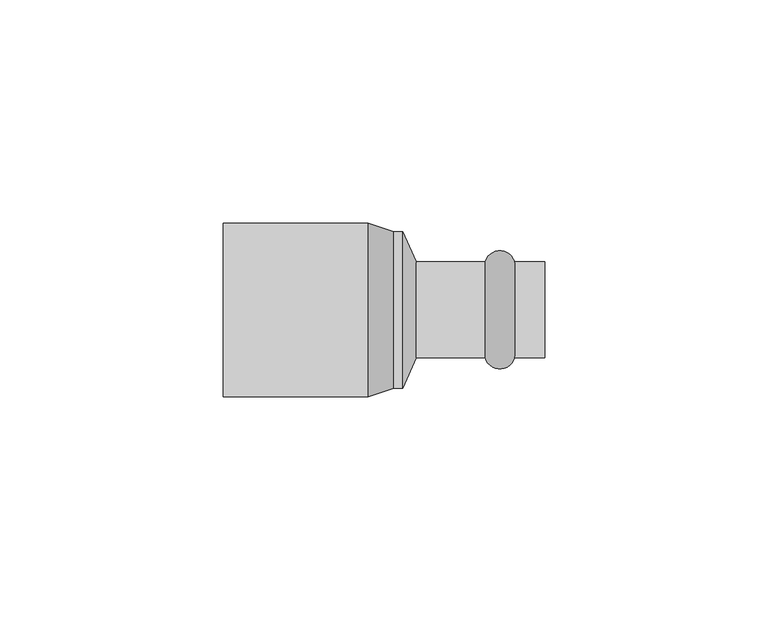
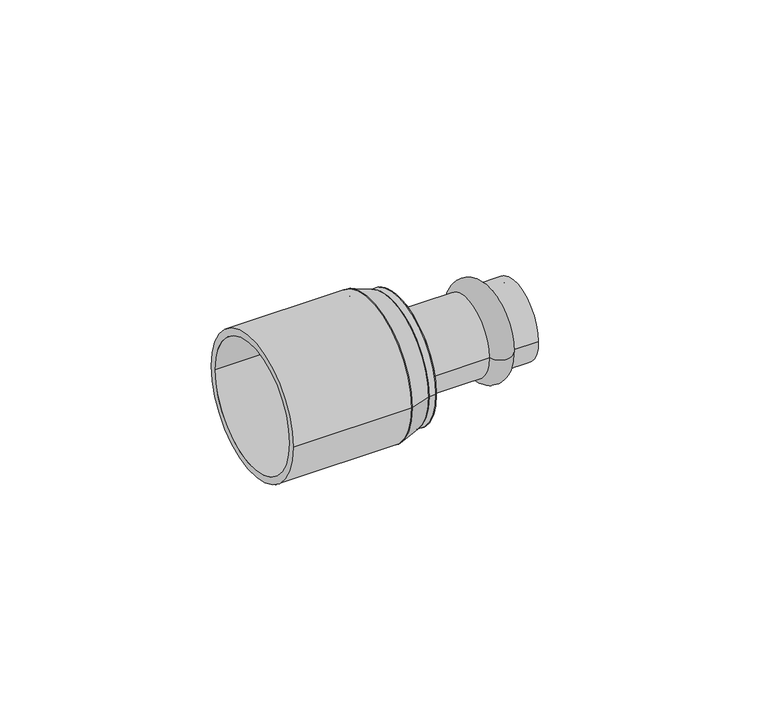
"""IFC4 building model written with IfcOpenShell, lengths in millimetres: pipe fitting geometry, VALTEC_VTi.905.I_Вставка переходная_Нержавеющая сталь : VTi.905.I."""

import ifcopenshell
import ifcopenshell.guid

model = None  # the IFC model being written
_history = None  # IfcOwnerHistory: only IFC2X3 demands one
_inside = {}  # id of a spatial element -> (the spatial element, [elements in it])
_under = {}  # id of a project, library or spatial element -> (it, [spatial elements below it])
_declared = {}  # id of a project -> (the project, [libraries it declares])
_typed = {}  # id of a type object -> (the type object, [elements of that type])
_made_of = {}  # id of a material, layer set ... -> (it, [elements and type objects made of it])


def new_model(schema):
    """Start an empty IFC model of exactly this schema.

    Asked for "IFC4X3", IfcOpenShell would pick the latest addendum, in which some entities
    have other attributes; the version numbers below select the first issue.
    IFC2X3 requires an IfcOwnerHistory on every rooted entity: one is made here for all.
    """
    global model, _history
    if schema == "IFC4X3":
        model = ifcopenshell.file(schema_version=(4, 3, 0, 0))
    else:
        model = ifcopenshell.file(schema=schema)
    _inside.clear()
    _under.clear()
    _declared.clear()
    _typed.clear()
    _made_of.clear()
    _history = None
    if model.schema == "IFC2X3":
        org = make("IfcOrganization", Name="unknown")
        user = make(
            "IfcPersonAndOrganization",
            ThePerson=make("IfcPerson", FamilyName="unknown"),
            TheOrganization=org,
        )
        app = make(
            "IfcApplication",
            ApplicationDeveloper=org,
            Version="unknown",
            ApplicationFullName="unknown",
            ApplicationIdentifier="unknown",
        )
        _history = make(
            "IfcOwnerHistory",
            OwningUser=user,
            OwningApplication=app,
            ChangeAction="ADDED",
            CreationDate=0,
        )
    return model


def make(cls, **values):
    """One entity of the class cls with the attributes given. An attribute that is None is left unset."""
    return model.create_entity(
        cls, **{name: value for name, value in values.items() if value is not None}
    )


def rooted(cls, **values):
    """An entity with a GlobalId (a new one), such as an element, a storey or a relation."""
    return make(cls, GlobalId=ifcopenshell.guid.new(), OwnerHistory=_history, **values)


def si_unit(unit_type, name, prefix=None):
    """IfcSIUnit, for example si_unit("LENGTHUNIT", "METRE", prefix="MILLI")."""
    return make("IfcSIUnit", UnitType=unit_type, Prefix=prefix, Name=name)


def assignment(units):
    """IfcUnitAssignment: the units of a project."""
    return None if units is None else make("IfcUnitAssignment", Units=units)


def point(xyz):
    """IfcCartesianPoint."""
    return None if xyz is None else make("IfcCartesianPoint", Coordinates=xyz)


def direction(xyz):
    """IfcDirection."""
    return None if xyz is None else make("IfcDirection", DirectionRatios=xyz)


def frame(location, z_axis=None, x_axis=None):
    """IfcAxis2Placement3D, a coordinate frame: its origin and axes. An axis left out is left unset."""
    return make(
        "IfcAxis2Placement3D",
        Location=point(location),
        Axis=direction(z_axis),
        RefDirection=direction(x_axis),
    )


def frame_2d(location, x_axis=None):
    """IfcAxis2Placement2D, a coordinate frame in the plane: its origin and x axis."""
    return make(
        "IfcAxis2Placement2D", Location=point(location), RefDirection=direction(x_axis)
    )


def origin():
    """The frame at (0, 0, 0) with its axes left unset."""
    return frame((0.0, 0.0, 0.0))


def origin_2d():
    """The frame at (0, 0) in the plane with its x axis left unset."""
    return frame_2d((0.0, 0.0))


def place(relative_to, where):
    """IfcLocalPlacement: puts the frame where relative to a parent placement (None: the world)."""
    return make(
        "IfcLocalPlacement", PlacementRelTo=relative_to, RelativePlacement=where
    )


def context(
    kind, dimensions, precision=None, world=None, true_north=None, identifier=None
):
    """IfcGeometricRepresentationContext, for example the 3D "Model" context."""
    return make(
        "IfcGeometricRepresentationContext",
        ContextIdentifier=identifier,
        ContextType=kind,
        CoordinateSpaceDimension=dimensions,
        Precision=precision,
        WorldCoordinateSystem=world,
        TrueNorth=true_north,
    )


def project(units=None, contexts=None):
    """IfcProject with its units and contexts."""
    return rooted(
        "IfcProject",
        Name="project",
        RepresentationContexts=contexts,
        UnitsInContext=assignment(units),
    )


def spatial(cls, under=None, at=None, **own):
    """A site, building, storey or space (cls), placed at a placement, below another one or the project."""
    s = rooted(cls, ObjectPlacement=at, **own)
    if under is not None:
        _under.setdefault(under.id(), (under, []))[1].append(s)
    return s


def polyline(points):
    """IfcPolyline through the points."""
    return make("IfcPolyline", Points=[point(p) for p in points])


def circle_curve(where, radius):
    """IfcCircle in the frame where."""
    return make("IfcCircle", Position=where, Radius=radius)


def ellipse_curve(where, semi_axis1, semi_axis2):
    """IfcEllipse in the frame where."""
    return make(
        "IfcEllipse", Position=where, SemiAxis1=semi_axis1, SemiAxis2=semi_axis2
    )


def trimmed(basis, trim1, trim2, sense, master):
    """IfcTrimmedCurve: the piece of a basis curve between two trims."""
    return make(
        "IfcTrimmedCurve",
        BasisCurve=basis,
        Trim1=trim1,
        Trim2=trim2,
        SenseAgreement=sense,
        MasterRepresentation=master,
    )


def segment(curve, same_sense, transition):
    """IfcCompositeCurveSegment."""
    return make(
        "IfcCompositeCurveSegment",
        Transition=transition,
        SameSense=same_sense,
        ParentCurve=curve,
    )


def composite_curve(segments, self_intersect=None):
    """IfcCompositeCurve: segments joined end to end."""
    return make("IfcCompositeCurve", Segments=segments, SelfIntersect=self_intersect)


def outline(outer, holes=None, kind="AREA"):
    """IfcArbitraryClosedProfileDef: a profile drawn as a closed curve; with holes, ...WithVoids."""
    if holes is None:
        return make("IfcArbitraryClosedProfileDef", ProfileType=kind, OuterCurve=outer)
    return make(
        "IfcArbitraryProfileDefWithVoids",
        ProfileType=kind,
        OuterCurve=outer,
        InnerCurves=holes,
    )


def extrude(swept, where, along, depth):
    """IfcExtrudedAreaSolid: the profile swept, set in the frame where, extruded along a direction by depth."""
    return make(
        "IfcExtrudedAreaSolid",
        SweptArea=swept,
        Position=where,
        ExtrudedDirection=direction(along),
        Depth=depth,
    )


def shape(context_of_items, identifier, shape_type, items):
    """IfcShapeRepresentation: the items that make up one representation, for example the "Body"."""
    return make(
        "IfcShapeRepresentation",
        ContextOfItems=context_of_items,
        RepresentationIdentifier=identifier,
        RepresentationType=shape_type,
        Items=items,
    )


def source(mapping_origin, context_of_items, identifier, shape_type, items):
    """IfcRepresentationMap: a shape defined once, which mapped items show again and again."""
    return make(
        "IfcRepresentationMap",
        MappingOrigin=mapping_origin,
        MappedRepresentation=shape(context_of_items, identifier, shape_type, items),
    )


def transform(
    local_origin,
    x_axis=None,
    y_axis=None,
    z_axis=None,
    scale=None,
    scale2=None,
    scale3=None,
    uniform=True,
):
    """IfcCartesianTransformationOperator3D, or its non-uniform kind. x_axis, y_axis, z_axis: its Axis1, 2, 3."""
    if uniform:
        return make(
            "IfcCartesianTransformationOperator3D",
            Axis1=direction(x_axis),
            Axis2=direction(y_axis),
            LocalOrigin=point(local_origin),
            Scale=scale,
            Axis3=direction(z_axis),
        )
    return make(
        "IfcCartesianTransformationOperator3DnonUniform",
        Axis1=direction(x_axis),
        Axis2=direction(y_axis),
        LocalOrigin=point(local_origin),
        Scale=scale,
        Axis3=direction(z_axis),
        Scale2=scale2,
        Scale3=scale3,
    )


def mapped(mapping_source, mapping_target):
    """IfcMappedItem: shows the shape of a source again, moved by a transform."""
    return make(
        "IfcMappedItem", MappingSource=mapping_source, MappingTarget=mapping_target
    )


def made_of(thing, what):
    """Note that an element or type object is made of a material, layer set ...; save() writes the relation."""
    if what is not None:
        _made_of.setdefault(what.id(), (what, []))[1].append(thing)
    return thing


def element(
    cls,
    number,
    at=None,
    inside=None,
    cuts=None,
    type_object=None,
    material=None,
    context=None,
    identifier="Body",
    shape_type=None,
    held_by="IfcProductDefinitionShape",
    body=None,
    shapes=None,
    **own,
):
    """One element of the class cls, such as IfcWall. Its Tag is "e" and its number.

    at: its placement. inside: the storey or other place that contains it. cuts: it is an
    opening in that element (IfcRelVoidsElement). A single representation is given by context,
    identifier, shape_type and body (its items); several are given by shapes. held_by: the class
    of the entity that holds the representations. save() writes the other relations.
    """
    e = rooted(cls, Tag="e%d" % number, ObjectPlacement=at, **own)
    if body is not None:
        shapes = [shape(context, identifier, shape_type, body)]
    if shapes is not None:
        e.Representation = make(held_by, Representations=shapes)
    if inside is not None:
        _inside.setdefault(inside.id(), (inside, []))[1].append(e)
    if cuts is not None:
        rooted(
            "IfcRelVoidsElement", RelatingBuildingElement=cuts, RelatedOpeningElement=e
        )
    if type_object is not None:
        _typed.setdefault(type_object.id(), (type_object, []))[1].append(e)
    return made_of(e, material)


def aggregate(whole, parts):
    """IfcRelAggregates: a whole, such as a stair, and the parts it consists of."""
    return rooted("IfcRelAggregates", RelatingObject=whole, RelatedObjects=parts)


def save(model, path):
    """Write the relations noted so far, then the file.

    IfcRelAggregates (storeys below a building ...), IfcRelContainedInSpatialStructure (elements
    in a storey), IfcRelDefinesByType, IfcRelAssociatesMaterial and IfcRelDeclares: one each for
    every whole, place, type object, material and project.
    """
    for whole, parts in _under.values():
        aggregate(whole, parts)
    for where, things in _inside.values():
        rooted(
            "IfcRelContainedInSpatialStructure",
            RelatedElements=things,
            RelatingStructure=where,
        )
    for kind, things in _typed.values():
        rooted("IfcRelDefinesByType", RelatedObjects=things, RelatingType=kind)
    for what, things in _made_of.values():
        rooted("IfcRelAssociatesMaterial", RelatedObjects=things, RelatingMaterial=what)
    for by, libraries in _declared.values():
        rooted("IfcRelDeclares", RelatingContext=by, RelatedDefinitions=libraries)
    model.write(path)


def plane_surface(at):
    """IfcPlane: the flat surface through the origin of the frame at, square to its z axis."""
    return make("IfcPlane", Position=at)


def cylinder_surface(at, radius):
    """IfcCylindricalSurface: all points at the distance radius from the z axis of the frame at."""
    return make("IfcCylindricalSurface", Position=at, Radius=radius)


def revolved_surface(curve, axis_point, axis_direction):
    """IfcSurfaceOfRevolution: the curve turned about the line through axis_point along axis_direction."""
    return make(
        "IfcSurfaceOfRevolution",
        SweptCurve=make("IfcArbitraryOpenProfileDef", ProfileType="CURVE", Curve=curve),
        AxisPosition=make("IfcAxis1Placement", Location=point(axis_point), Axis=direction(axis_direction)),
    )


def advanced_brep(points, edges, surfaces, faces):
    """IfcAdvancedBrep: a solid bounded by faces that lie on surfaces and meet in shared edges.

    An edge is (start, end): straight between two places in points (the first is 0);
    or (start, end, curve); or (start, end, curve, False) where it runs against its curve.
    A face is (place in surfaces, loops), or (place, loops, False) where it looks against
    its surface's normal. A loop lists edges by number (the first is 1), with a minus sign
    where the edge is run from its end to its start. The first loop is the outer one.
    """
    corners = [point(p) for p in points]
    vertices = [make("IfcVertexPoint", VertexGeometry=c) for c in corners]
    made = []
    for start, end, *more in edges:
        made.append(
            make(
                "IfcEdgeCurve",
                EdgeStart=vertices[start],
                EdgeEnd=vertices[end],
                EdgeGeometry=more[0] if more else make("IfcPolyline", Points=[corners[start], corners[end]]),
                SameSense=more[1] if len(more) > 1 else True,
            )
        )
    hull = []
    for where, loops, *sense in faces:
        bounds = []
        for j, loop in enumerate(loops):
            ring = [make("IfcOrientedEdge", EdgeElement=made[abs(k) - 1], Orientation=k > 0) for k in loop]
            bounds.append(
                make(
                    "IfcFaceOuterBound" if j == 0 else "IfcFaceBound",
                    Bound=make("IfcEdgeLoop", EdgeList=ring),
                    Orientation=True,
                )
            )
        hull.append(make("IfcAdvancedFace", Bounds=bounds, FaceSurface=surfaces[where], SameSense=sense[0] if sense else True))
    return make("IfcAdvancedBrep", Outer=make("IfcClosedShell", CfsFaces=hull))


def pipe_fitting_96496084(model_context):
    return source(origin(), model_context, "Body", "SolidModel", [
        advanced_brep(
        [(29.2287193, -10.75, 0.0), (22.6712807, -10.75, 0.0), (22.6712807, 10.75, 0.0), (29.2287193, 10.75, 0.0), (36.0, -10.75, 0.0), (36.0, 10.75, 0.0), (36.0, -9.0, 0.0), (36.0, 9.0, 0.0), (7.2, -9.0, 0.0), (7.2, 9.0, 0.0), (7.2, -10.75, 0.0), (7.2, 10.75, 0.0)],
        [
            (0, 1, circle_curve(frame((25.95, -9.85, 0.0), z_axis=(0.0, 0.0, -1.0), x_axis=(-1.0, 0.0, 0.0)), 3.4)),
            (1, 2, circle_curve(frame((22.6712807, 0.0, 0.0), z_axis=(1.0, 0.0, 0.0), x_axis=(0.0, 1.0, 0.0)), 10.75)),
            (2, 3, circle_curve(frame((25.95, 9.85, 0.0), z_axis=(0.0, 0.0, -1.0), x_axis=(-1.0, 0.0, 0.0)), 3.4)),
            (3, 0, circle_curve(frame((29.2287193, 0.0, 0.0), z_axis=(-1.0, 0.0, 0.0), x_axis=(0.0, 1.0, 0.0)), 10.75)),
            (2, 1, circle_curve(frame((22.6712807, 0.0, 0.0), z_axis=(1.0, 0.0, 0.0), x_axis=(0.0, 1.0, 0.0)), 10.75)),
            (0, 3, circle_curve(frame((29.2287193, 0.0, 0.0), z_axis=(-1.0, 0.0, 0.0), x_axis=(0.0, 1.0, 0.0)), 10.75)),
            (4, 0),
            (3, 5),
            (5, 4, circle_curve(frame((36.0, 0.0, 0.0), z_axis=(-1.0, 0.0, 0.0), x_axis=(0.0, 1.0, 0.0)), 10.75)),
            (4, 5, circle_curve(frame((36.0, 0.0, 0.0), z_axis=(-1.0, 0.0, 0.0), x_axis=(0.0, 1.0, 0.0)), 10.75)),
            (6, 4),
            (5, 7),
            (7, 6, circle_curve(frame((36.0, 0.0, 0.0), z_axis=(-1.0, 0.0, 0.0), x_axis=(0.0, 1.0, 0.0)), 9.0)),
            (6, 7, circle_curve(frame((36.0, 0.0, 0.0), z_axis=(-1.0, 0.0, 0.0), x_axis=(0.0, 1.0, 0.0)), 9.0)),
            (8, 6),
            (7, 9),
            (9, 8, circle_curve(frame((7.2, 0.0, 0.0), z_axis=(-1.0, 0.0, 0.0), x_axis=(0.0, 1.0, 0.0)), 9.0)),
            (8, 9, circle_curve(frame((7.2, 0.0, 0.0), z_axis=(-1.0, 0.0, 0.0), x_axis=(0.0, 1.0, 0.0)), 9.0)),
            (10, 8),
            (9, 11),
            (11, 10, circle_curve(frame((7.2, 0.0, 0.0), z_axis=(-1.0, 0.0, 0.0), x_axis=(0.0, 1.0, 0.0)), 10.75)),
            (10, 11, circle_curve(frame((7.2, 0.0, 0.0), z_axis=(-1.0, 0.0, 0.0), x_axis=(0.0, 1.0, 0.0)), 10.75)),
            (1, 10),
            (11, 2),
        ],
        [
            revolved_surface(trimmed(ellipse_curve(frame((25.95, 9.85, 0.0), z_axis=(0.0, 0.0, -1.0), x_axis=(-1.0, 0.0, 0.0)), 3.4, 3.4), [point((22.6712807, 10.75, 0.0))], [point((29.2287193, 10.75, 0.0))], True, "CARTESIAN"), (39.5364426, 0.0, 0.0), (1.0, 0.0, 0.0)),
            cylinder_surface(frame((39.5364426, 0.0, 0.0), z_axis=(1.0, 0.0, 0.0), x_axis=(0.0, 1.0, 0.0)), 10.75),
            plane_surface(frame((36.0, 0.0, 0.0), z_axis=(1.0, 0.0, 0.0), x_axis=(0.0, 1.0, 0.0))),
            revolved_surface(polyline([(36.0, 9.0, 0.0), (7.200000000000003, 9.0, 0.0)]), (39.5364426, 0.0, 0.0), (1.0, 0.0, 0.0)),
            plane_surface(frame((7.2, 0.0, 0.0), z_axis=(-1.0, 0.0, 0.0), x_axis=(0.0, 1.0, 0.0))),
        ],
        [
            (0, [[1, 2, 3, 4]]),
            (0, [[-3, 5, -1, 6]]),
            (1, [[7, -4, 8, 9]]),
            (1, [[-8, -6, -7, 10]]),
            (2, [[11, -9, 12, 13]]),
            (2, [[-12, -10, -11, 14]]),
            (3, [[15, -13, 16, 17]]),
            (3, [[-16, -14, -15, 18]]),
            (4, [[19, -17, 20, 21]]),
            (4, [[-20, -18, -19, 22]]),
            (1, [[23, -21, 24, -2]]),
            (1, [[-24, -22, -23, -5]]),
        ],
    ),
        advanced_brep(
        [(4.2, -17.5, 0.0), (4.2, 17.5, 0.0), (7.2, -10.75, 0.0), (7.2, 10.75, 0.0)],
        [
            (0, 1, circle_curve(frame((4.2, 0.0, 0.0), z_axis=(-1.0, 0.0, 0.0), x_axis=(0.0, -1.0, 0.0)), 17.5)),
            (1, 0, circle_curve(frame((4.2, 0.0, 0.0), z_axis=(-1.0, 0.0, 0.0), x_axis=(0.0, 1.0, 0.0)), 17.5)),
            (2, 3, circle_curve(frame((7.2, 0.0, 0.0), z_axis=(1.0, 0.0, 0.0), x_axis=(0.0, 1.0, 0.0)), 10.75)),
            (3, 2, circle_curve(frame((7.2, 0.0, 0.0), z_axis=(1.0, 0.0, 0.0), x_axis=(0.0, -1.0, 0.0)), 10.75)),
            (2, 0),
            (1, 3),
        ],
        [
            plane_surface(frame((4.2, 0.0, 0.0), z_axis=(-1.0, 0.0, 0.0), x_axis=(0.0, 0.0, 1.0))),
            plane_surface(frame((7.2, 0.0, 0.0), z_axis=(1.0, 0.0, 0.0), x_axis=(0.0, 0.0, 1.0))),
            revolved_surface(polyline([(7.2, -10.750000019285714, 0.0), (4.2, -17.5, 0.0)]), (11.9777778, 0.0, 0.0), (-1.0, 0.0, 0.0)),
            revolved_surface(polyline([(7.2, 10.750000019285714, 0.0), (4.2, 17.5, 0.0)]), (11.9777778, 0.0, 0.0), (-1.0, 0.0, 0.0)),
        ],
        [
            (0, [[1, 2]]),
            (1, [[3, 4]]),
            (2, [[-3, 5, -2, 6]]),
            (3, [[-4, -6, -1, -5]]),
        ],
    ),
        extrude(outline(composite_curve([segment(trimmed(circle_curve(origin_2d(), 17.5), [point((-17.5, 0.0))], [point((17.5, 0.0))], False, "CARTESIAN"), True, "CONTINUOUS"), segment(trimmed(circle_curve(origin_2d(), 17.5), [point((17.5, 0.0))], [point((-17.5, 0.0))], False, "CARTESIAN"), True, "CONTINUOUS")], self_intersect=False)), frame((2.2, 0.0, 0.0), z_axis=(1.0, 0.0, 0.0), x_axis=(0.0, 1.0, 0.0)), (0.0, 0.0, 1.0), 2.0),
        advanced_brep(
        [(2.2, -17.5, 0.0), (2.2, 17.5, 0.0), (-3.5, -19.4, 0.0), (-3.5, 19.4, 0.0)],
        [
            (0, 1, circle_curve(frame((2.2, 0.0, 0.0), z_axis=(1.0, 0.0, 0.0), x_axis=(0.0, -1.0, 0.0)), 17.5)),
            (1, 0, circle_curve(frame((2.2, 0.0, 0.0), z_axis=(1.0, 0.0, 0.0), x_axis=(0.0, 1.0, 0.0)), 17.5)),
            (2, 3, circle_curve(frame((-3.5, 0.0, 0.0), z_axis=(-1.0, 0.0, 0.0), x_axis=(0.0, 1.0, 0.0)), 19.4)),
            (3, 2, circle_curve(frame((-3.5, 0.0, 0.0), z_axis=(-1.0, 0.0, 0.0), x_axis=(0.0, -1.0, 0.0)), 19.4)),
            (3, 1),
            (0, 2),
        ],
        [
            plane_surface(frame((2.2, 0.0, 0.0), z_axis=(1.0, 0.0, 0.0), x_axis=(0.0, 0.0, -1.0))),
            plane_surface(frame((-3.5, 0.0, 0.0), z_axis=(-1.0, 0.0, 0.0), x_axis=(0.0, 0.0, -1.0))),
            revolved_surface(polyline([(2.200000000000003, -17.499999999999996, 0.0), (-3.5, -19.4, 0.0)]), (54.7, 0.0, 0.0), (-1.0, 0.0, 0.0)),
            revolved_surface(polyline([(2.200000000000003, 17.499999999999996, 0.0), (-3.5, 19.4, 0.0)]), (54.7, 0.0, 0.0), (-1.0, 0.0, 0.0)),
        ],
        [
            (0, [[1, 2]]),
            (1, [[3, 4]]),
            (2, [[-4, 5, -1, 6]]),
            (3, [[-3, -6, -2, -5]]),
        ],
    ),
        extrude(outline(composite_curve([segment(trimmed(circle_curve(origin_2d(), 19.4), [point((-19.4, 0.0))], [point((19.4, 0.0))], False, "CARTESIAN"), True, "CONTINUOUS"), segment(trimmed(circle_curve(origin_2d(), 19.4), [point((19.4, 0.0))], [point((-19.4, 0.0))], False, "CARTESIAN"), True, "CONTINUOUS")], self_intersect=False), holes=[composite_curve([segment(trimmed(circle_curve(origin_2d(), 17.5), [point((-17.5, 0.0))], [point((17.5, 0.0))], True, "CARTESIAN"), True, "CONTINUOUS"), segment(trimmed(circle_curve(origin_2d(), 17.5), [point((17.5, 0.0))], [point((-17.5, 0.0))], True, "CARTESIAN"), True, "CONTINUOUS")], self_intersect=False)]), frame((-36.0, 0.0, 0.0), z_axis=(1.0, 0.0, 0.0), x_axis=(0.0, 1.0, 0.0)), (0.0, 0.0, 1.0), 32.5),
    ])


if __name__ == "__main__":
    model = new_model("IFC4")
    model_context = context("Model", 3, world=origin())
    ifc_project = project(units=[si_unit("LENGTHUNIT", "METRE", prefix="MILLI")], contexts=[model_context])
    site = spatial("IfcSite", under=ifc_project)
    building = spatial("IfcBuilding", under=site)
    placement = place(None, origin())
    pipe_fitting_shape = pipe_fitting_96496084(model_context)
    element("IfcPipeFitting", 1, ObjectType="VALTEC_VTi.905.I_Вставка переходная_Нержавеющая сталь : VTi.905.I", at=placement, inside=building, context=model_context, shape_type="MappedRepresentation", body=[
        mapped(pipe_fitting_shape, transform((0.0, 0.0, 0.0), x_axis=(1.0, 0.0, 0.0), y_axis=(0.0, 1.0, 0.0), z_axis=(0.0, 0.0, 1.0))),
    ])
    save(model, "model.ifc")
